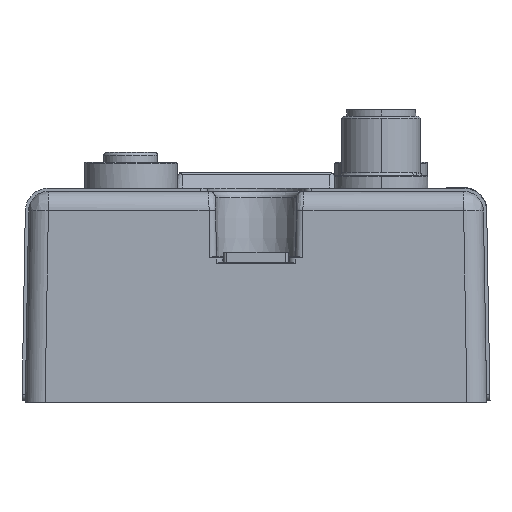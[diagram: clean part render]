
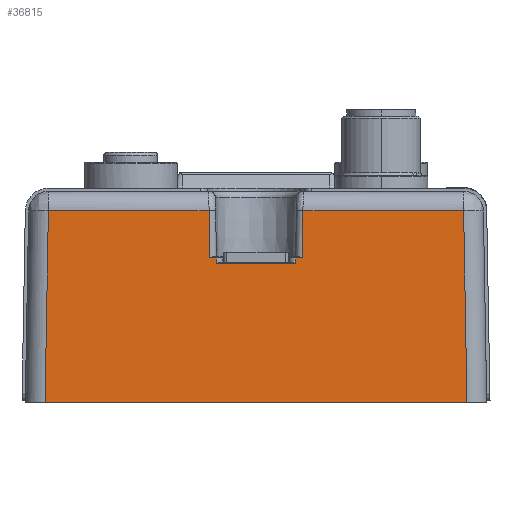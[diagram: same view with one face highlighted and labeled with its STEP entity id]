
A CAD part, front view. The second image highlights one B-rep face of the part: STEP entity #36815.
In plain terms, the highlighted planar face has unit normal (0, -1, 0.018).
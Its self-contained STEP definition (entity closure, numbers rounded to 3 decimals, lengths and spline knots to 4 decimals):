
#1611 = CARTESIAN_POINT ( 'NONE',  ( 0., -3.3071, -1.2598 ) ) ;
#3397 = EDGE_CURVE ( 'NONE', #130628, #124130, #115433, .T. ) ;
#3483 = LINE ( 'NONE', #70919, #57866 ) ;
#3731 = VERTEX_POINT ( 'NONE', #30733 ) ;
#6691 = LINE ( 'NONE', #18773, #64240 ) ;
#7840 = VERTEX_POINT ( 'NONE', #65234 ) ;
#9678 = DIRECTION ( 'NONE',  ( -0.017, 0.017, 1. ) ) ;
#11183 = LINE ( 'NONE', #102889, #14441 ) ;
#12571 = VECTOR ( 'NONE', #47158, 39.3701 ) ;
#14441 = VECTOR ( 'NONE', #41659, 39.3701 ) ;
#18773 = CARTESIAN_POINT ( 'NONE',  ( -1.356, -3.2927, -0.4329 ) ) ;
#19492 = VECTOR ( 'NONE', #99799, 39.3701 ) ;
#20559 = CARTESIAN_POINT ( 'NONE',  ( -0.678, -3.2871, -0.116 ) ) ;
#20921 = VERTEX_POINT ( 'NONE', #116822 ) ;
#22080 = DIRECTION ( 'NONE',  ( -0.017, 0.017, 1. ) ) ;
#23495 = ORIENTED_EDGE ( 'NONE', *, *, #88366, .T. ) ;
#25737 = EDGE_CURVE ( 'NONE', #118478, #37768, #80281, .T. ) ;
#26619 = CARTESIAN_POINT ( 'NONE',  ( -0.678, -3.2871, -0.116 ) ) ;
#26803 = CARTESIAN_POINT ( 'NONE',  ( 0.2804, -3.2871, -0.116 ) ) ;
#27139 = EDGE_CURVE ( 'NONE', #31287, #43199, #33729, .T. ) ;
#28130 = EDGE_CURVE ( 'NONE', #3731, #44834, #118374, .T. ) ;
#30733 = CARTESIAN_POINT ( 'NONE',  ( -1.2399, -3.2871, -0.116 ) ) ;
#31287 = VERTEX_POINT ( 'NONE', #84719 ) ;
#32211 = CARTESIAN_POINT ( 'NONE',  ( -1.356, -3.292, -0.3976 ) ) ;
#32651 = CARTESIAN_POINT ( 'NONE',  ( -0.2804, -3.2871, -0.116 ) ) ;
#33441 = LINE ( 'NONE', #123980, #84601 ) ;
#33729 = LINE ( 'NONE', #26803, #112081 ) ;
#34912 = VERTEX_POINT ( 'NONE', #113892 ) ;
#36815 = ADVANCED_FACE ( 'NONE', ( #131974 ), #106032, .T. ) ;
#37768 = VERTEX_POINT ( 'NONE', #76252 ) ;
#41117 = ORIENTED_EDGE ( 'NONE', *, *, #3397, .F. ) ;
#41659 = DIRECTION ( 'NONE',  ( -0.017, -0.017, -1. ) ) ;
#42316 = DIRECTION ( 'NONE',  ( 1., 0., 0. ) ) ;
#42498 = DIRECTION ( 'NONE',  ( -1., 0., 0. ) ) ;
#43199 = VERTEX_POINT ( 'NONE', #122422 ) ;
#43778 = DIRECTION ( 'NONE',  ( -1., 0., 0. ) ) ;
#44816 = CARTESIAN_POINT ( 'NONE',  ( -1.356, -3.2851, 0. ) ) ;
#44834 = VERTEX_POINT ( 'NONE', #32651 ) ;
#47158 = DIRECTION ( 'NONE',  ( 1., 0., 0. ) ) ;
#48727 = ORIENTED_EDGE ( 'NONE', *, *, #57853, .T. ) ;
#49476 = EDGE_CURVE ( 'NONE', #20921, #115405, #105417, .T. ) ;
#50991 = CARTESIAN_POINT ( 'NONE',  ( 1.2399, -3.2871, -0.116 ) ) ;
#51189 = VECTOR ( 'NONE', #61632, 39.3701 ) ;
#55052 = DIRECTION ( 'NONE',  ( 0., -0.017, -1. ) ) ;
#57853 = EDGE_CURVE ( 'NONE', #43199, #118478, #104526, .T. ) ;
#57866 = VECTOR ( 'NONE', #9678, 39.3701 ) ;
#60382 = CARTESIAN_POINT ( 'NONE',  ( 0.2367, -3.292, -0.3976 ) ) ;
#61626 = ORIENTED_EDGE ( 'NONE', *, *, #73883, .T. ) ;
#61632 = DIRECTION ( 'NONE',  ( 1., 0., 0. ) ) ;
#64240 = VECTOR ( 'NONE', #90260, 39.3701 ) ;
#65234 = CARTESIAN_POINT ( 'NONE',  ( -0.2361, -3.2927, -0.4329 ) ) ;
#69153 = CARTESIAN_POINT ( 'NONE',  ( 0.2367, -3.292, -0.3976 ) ) ;
#70919 = CARTESIAN_POINT ( 'NONE',  ( -0.2361, -3.2927, -0.4329 ) ) ;
#72595 = ORIENTED_EDGE ( 'NONE', *, *, #126793, .F. ) ;
#72742 = CARTESIAN_POINT ( 'NONE',  ( -0.2755, -3.292, -0.3976 ) ) ;
#73883 = EDGE_CURVE ( 'NONE', #7840, #20921, #3483, .T. ) ;
#74267 = ORIENTED_EDGE ( 'NONE', *, *, #27139, .T. ) ;
#74509 = ORIENTED_EDGE ( 'NONE', *, *, #49476, .T. ) ;
#76252 = CARTESIAN_POINT ( 'NONE',  ( 0.2361, -3.2927, -0.4329 ) ) ;
#77365 = VECTOR ( 'NONE', #42498, 39.3701 ) ;
#78552 = AXIS2_PLACEMENT_3D ( 'NONE', #44816, #85450, #55052 ) ;
#80281 = LINE ( 'NONE', #60382, #19492 ) ;
#84047 = EDGE_CURVE ( 'NONE', #37768, #7840, #6691, .T. ) ;
#84601 = VECTOR ( 'NONE', #22080, 39.3701 ) ;
#84623 = VECTOR ( 'NONE', #43778, 39.3701 ) ;
#84719 = CARTESIAN_POINT ( 'NONE',  ( 0.2804, -3.2871, -0.116 ) ) ;
#85450 = DIRECTION ( 'NONE',  ( 0., -1., 0.017 ) ) ;
#88236 = VECTOR ( 'NONE', #123385, 39.3701 ) ;
#88366 = EDGE_CURVE ( 'NONE', #3731, #34912, #11183, .T. ) ;
#90260 = DIRECTION ( 'NONE',  ( -1., 0., 0. ) ) ;
#96343 = EDGE_LOOP ( 'NONE', ( #72595, #74267, #48727, #125542, #127235, #61626, #74509, #127363, #112985, #23495, #106713, #41117 ) ) ;
#99799 = DIRECTION ( 'NONE',  ( -0.017, -0.017, -1. ) ) ;
#102889 = CARTESIAN_POINT ( 'NONE',  ( -1.2399, -3.2871, -0.116 ) ) ;
#104526 = LINE ( 'NONE', #32211, #77365 ) ;
#104987 = CARTESIAN_POINT ( 'NONE',  ( -1.356, -3.292, -0.3976 ) ) ;
#105417 = LINE ( 'NONE', #104987, #84623 ) ;
#105821 = EDGE_CURVE ( 'NONE', #34912, #124130, #113744, .T. ) ;
#106032 = PLANE ( 'NONE',  #78552 ) ;
#106713 = ORIENTED_EDGE ( 'NONE', *, *, #105821, .T. ) ;
#108986 = EDGE_CURVE ( 'NONE', #115405, #44834, #33441, .T. ) ;
#110527 = VECTOR ( 'NONE', #42316, 39.3701 ) ;
#112081 = VECTOR ( 'NONE', #118846, 39.3701 ) ;
#112985 = ORIENTED_EDGE ( 'NONE', *, *, #28130, .F. ) ;
#113744 = LINE ( 'NONE', #1611, #110527 ) ;
#113892 = CARTESIAN_POINT ( 'NONE',  ( -1.2599, -3.3071, -1.2598 ) ) ;
#115405 = VERTEX_POINT ( 'NONE', #72742 ) ;
#115433 = LINE ( 'NONE', #122933, #88236 ) ;
#116822 = CARTESIAN_POINT ( 'NONE',  ( -0.2367, -3.292, -0.3976 ) ) ;
#118374 = LINE ( 'NONE', #20559, #51189 ) ;
#118478 = VERTEX_POINT ( 'NONE', #69153 ) ;
#118846 = DIRECTION ( 'NONE',  ( -0.017, -0.017, -1. ) ) ;
#121306 = LINE ( 'NONE', #26619, #12571 ) ;
#122422 = CARTESIAN_POINT ( 'NONE',  ( 0.2755, -3.292, -0.3976 ) ) ;
#122933 = CARTESIAN_POINT ( 'NONE',  ( 1.2375, -3.2847, 0.0216 ) ) ;
#123385 = DIRECTION ( 'NONE',  ( 0.017, -0.017, -1. ) ) ;
#123980 = CARTESIAN_POINT ( 'NONE',  ( -0.2755, -3.292, -0.3976 ) ) ;
#124130 = VERTEX_POINT ( 'NONE', #128724 ) ;
#125542 = ORIENTED_EDGE ( 'NONE', *, *, #25737, .T. ) ;
#126793 = EDGE_CURVE ( 'NONE', #31287, #130628, #121306, .T. ) ;
#127235 = ORIENTED_EDGE ( 'NONE', *, *, #84047, .T. ) ;
#127363 = ORIENTED_EDGE ( 'NONE', *, *, #108986, .T. ) ;
#128724 = CARTESIAN_POINT ( 'NONE',  ( 1.2599, -3.3071, -1.2598 ) ) ;
#130628 = VERTEX_POINT ( 'NONE', #50991 ) ;
#131974 = FACE_OUTER_BOUND ( 'NONE', #96343, .T. ) ;
